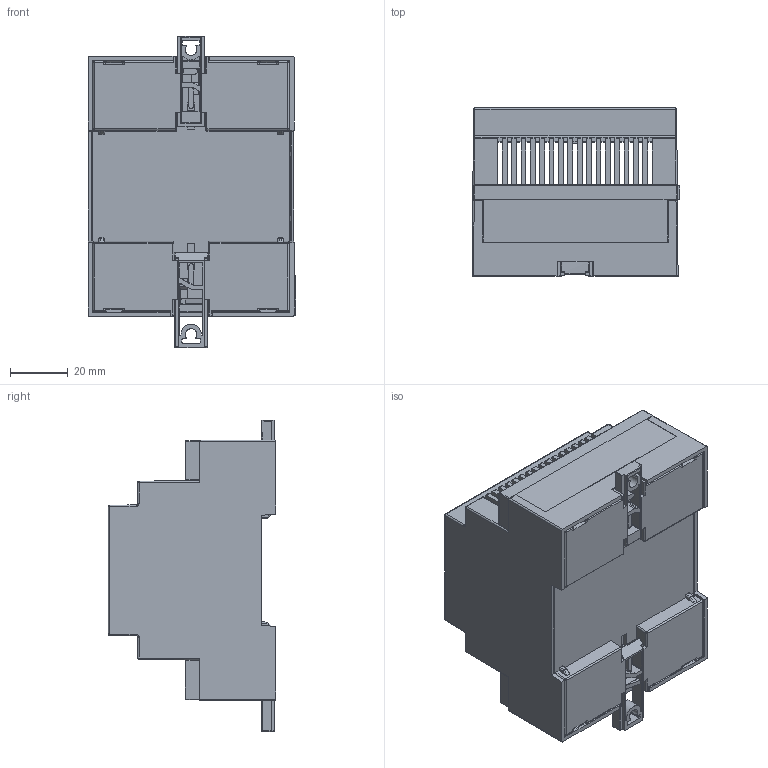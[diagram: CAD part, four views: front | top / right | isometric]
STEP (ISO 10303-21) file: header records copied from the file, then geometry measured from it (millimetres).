
FILE_DESCRIPTION(('FreeCAD Model'),'2;1');
FILE_NAME('Open CASCADE Shape Model','2025-01-16T13:41:35',('Author'),( ''),'Open CASCADE STEP processor 7.5','FreeCAD','Unknown');
FILE_SCHEMA(('AUTOMOTIVE_DESIGN { 1 0 10303 214 1 1 1 1 }'));
Length unit declared in the file: millimetre
Products named in the file (8): IMD100 [001158]; Main Enclosure; DIN Rail Clip 1; DIN Rail Clip 2; Rear Cover; Front Cover; Terminal Cover 1; Terminal Cover 2
Assembly tree (7 placements, depth 2):
  IMD100 [001158]
    Main Enclosure
    DIN Rail Clip 1
    DIN Rail Clip 2
    Rear Cover
    Front Cover
    Terminal Cover 1
    Terminal Cover 2
Bounding box: 71.83 x 58 x 107.5 mm (x, y, z)
Volume: 47731.1 mm3; surface area: 70634.9 mm2
Topology: 9 solids, 9 shells, 1440 faces, 10619 edges, 35632 vertices
Faces by surface type: plane 805, cylinder 440, bspline 191, cone 4
Entity records: 258703 total; most frequent: CARTESIAN_POINT 114236, DIRECTION 17757, LINE 14283, VECTOR 14283, ORIENTED_EDGE 7834, PCURVE 7834, DEFINITIONAL_REPRESENTATION 7834, GEOMETRIC_CURVE_SET 6641
